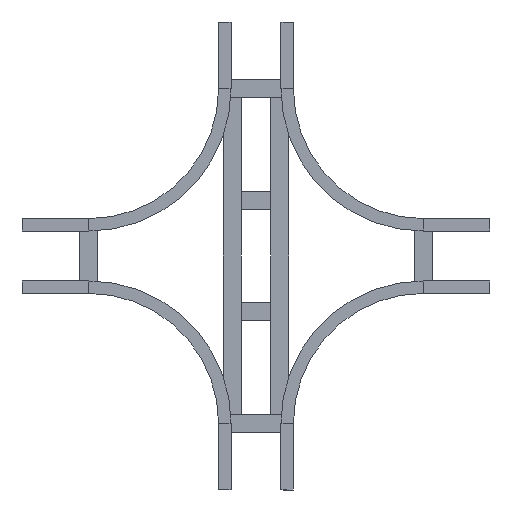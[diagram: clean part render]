
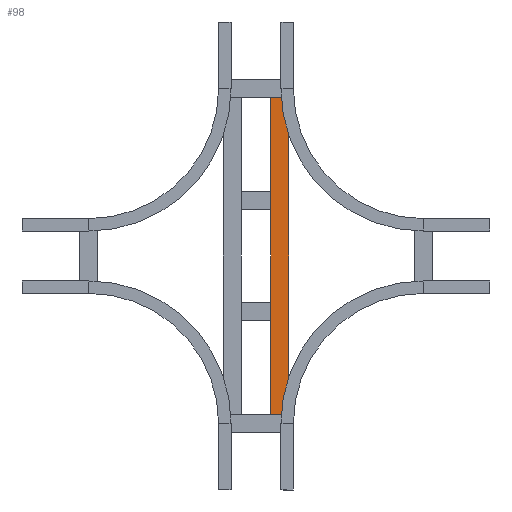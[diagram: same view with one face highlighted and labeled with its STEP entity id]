
A CAD part, front view. The second image highlights one B-rep face of the part: STEP entity #98.
In plain terms, the highlighted planar face has unit normal (0, -1, 0).
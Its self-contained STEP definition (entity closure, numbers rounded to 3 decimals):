
#90 = LINE ( 'NONE', #451, #354 ) ;
#98 = ADVANCED_FACE ( 'NONE', ( #1555 ), #1383, .F. ) ;
#120 = DIRECTION ( 'NONE',  ( -1., 0., 0. ) ) ;
#271 = VERTEX_POINT ( 'NONE', #423 ) ;
#354 = VECTOR ( 'NONE', #1644, 1000. ) ;
#420 = EDGE_LOOP ( 'NONE', ( #452, #925, #1578, #1897 ) ) ;
#423 = CARTESIAN_POINT ( 'NONE',  ( 354.75, 0., -20.25 ) ) ;
#451 = CARTESIAN_POINT ( 'NONE',  ( -354.75, 0., 20.25 ) ) ;
#452 = ORIENTED_EDGE ( 'NONE', *, *, #1852, .T. ) ;
#471 = VERTEX_POINT ( 'NONE', #490 ) ;
#490 = CARTESIAN_POINT ( 'NONE',  ( -354.75, 0., 20.25 ) ) ;
#542 = VECTOR ( 'NONE', #120, 1000. ) ;
#571 = CARTESIAN_POINT ( 'NONE',  ( 354.75, 0., 20.25 ) ) ;
#606 = CARTESIAN_POINT ( 'NONE',  ( 354.75, 0., 20.25 ) ) ;
#625 = LINE ( 'NONE', #1515, #1429 ) ;
#823 = EDGE_CURVE ( 'NONE', #1206, #471, #1504, .T. ) ;
#912 = VERTEX_POINT ( 'NONE', #1688 ) ;
#925 = ORIENTED_EDGE ( 'NONE', *, *, #1821, .F. ) ;
#945 = CARTESIAN_POINT ( 'NONE',  ( 354.75, 0., -20.25 ) ) ;
#969 = DIRECTION ( 'NONE',  ( -1., 0., 0. ) ) ;
#1052 = DIRECTION ( 'NONE',  ( 0., 0., 1. ) ) ;
#1206 = VERTEX_POINT ( 'NONE', #571 ) ;
#1383 = PLANE ( 'NONE',  #2101 ) ;
#1401 = EDGE_CURVE ( 'NONE', #1206, #271, #625, .T. ) ;
#1429 = VECTOR ( 'NONE', #1666, 1000. ) ;
#1504 = LINE ( 'NONE', #606, #1816 ) ;
#1515 = CARTESIAN_POINT ( 'NONE',  ( 354.75, 0., 20.25 ) ) ;
#1555 = FACE_OUTER_BOUND ( 'NONE', #420, .T. ) ;
#1578 = ORIENTED_EDGE ( 'NONE', *, *, #1401, .F. ) ;
#1644 = DIRECTION ( 'NONE',  ( 0., 0., -1. ) ) ;
#1666 = DIRECTION ( 'NONE',  ( 0., 0., -1. ) ) ;
#1688 = CARTESIAN_POINT ( 'NONE',  ( -354.75, 0., -20.25 ) ) ;
#1775 = DIRECTION ( 'NONE',  ( 0., 1., 0. ) ) ;
#1816 = VECTOR ( 'NONE', #969, 1000. ) ;
#1821 = EDGE_CURVE ( 'NONE', #271, #912, #1864, .T. ) ;
#1852 = EDGE_CURVE ( 'NONE', #471, #912, #90, .T. ) ;
#1864 = LINE ( 'NONE', #945, #542 ) ;
#1897 = ORIENTED_EDGE ( 'NONE', *, *, #823, .T. ) ;
#2101 = AXIS2_PLACEMENT_3D ( 'NONE', #2257, #1775, #1052 ) ;
#2257 = CARTESIAN_POINT ( 'NONE',  ( 354.75, 0., 20.25 ) ) ;
